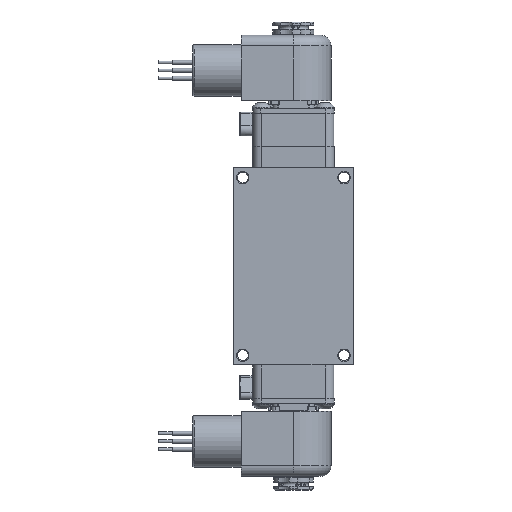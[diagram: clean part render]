
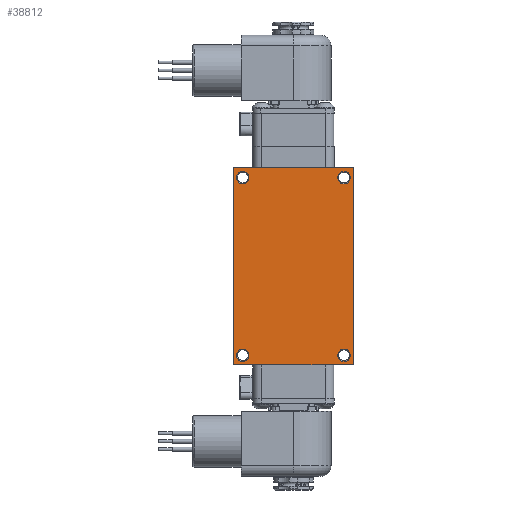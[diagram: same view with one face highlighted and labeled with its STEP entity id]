
A CAD part, front view. The second image highlights one B-rep face of the part: STEP entity #38812.
In plain terms, the highlighted planar face has unit normal (0, -1, 0).
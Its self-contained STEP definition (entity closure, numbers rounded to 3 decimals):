
#1399=FACE_BOUND('',#6134,.T.);
#1400=FACE_BOUND('',#6135,.T.);
#1401=FACE_BOUND('',#6136,.T.);
#1402=FACE_BOUND('',#6137,.T.);
#2101=PLANE('',#42463);
#3788=FACE_OUTER_BOUND('',#6133,.T.);
#6133=EDGE_LOOP('',(#30522,#30523,#30524,#30525));
#6134=EDGE_LOOP('',(#30526));
#6135=EDGE_LOOP('',(#30527));
#6136=EDGE_LOOP('',(#30528));
#6137=EDGE_LOOP('',(#30529));
#8580=CIRCLE('',#42452,0.296);
#8582=CIRCLE('',#42456,0.296);
#8584=CIRCLE('',#42460,0.296);
#8586=CIRCLE('',#42464,0.296);
#10976=LINE('',#65101,#13683);
#10977=LINE('',#65103,#13684);
#10978=LINE('',#65105,#13685);
#10979=LINE('',#65106,#13686);
#13683=VECTOR('',#51179,1.);
#13684=VECTOR('',#51180,1.);
#13685=VECTOR('',#51181,1.);
#13686=VECTOR('',#51182,1.);
#16911=VERTEX_POINT('',#65075);
#16913=VERTEX_POINT('',#65083);
#16915=VERTEX_POINT('',#65091);
#16917=VERTEX_POINT('',#65099);
#16918=VERTEX_POINT('',#65100);
#16919=VERTEX_POINT('',#65102);
#16920=VERTEX_POINT('',#65104);
#16921=VERTEX_POINT('',#65107);
#21672=EDGE_CURVE('',#16911,#16911,#8580,.T.);
#21676=EDGE_CURVE('',#16913,#16913,#8582,.T.);
#21680=EDGE_CURVE('',#16915,#16915,#8584,.T.);
#21684=EDGE_CURVE('',#16917,#16918,#10976,.T.);
#21685=EDGE_CURVE('',#16919,#16917,#10977,.T.);
#21686=EDGE_CURVE('',#16920,#16919,#10978,.T.);
#21687=EDGE_CURVE('',#16918,#16920,#10979,.T.);
#21688=EDGE_CURVE('',#16921,#16921,#8586,.T.);
#30522=ORIENTED_EDGE('',*,*,#21684,.F.);
#30523=ORIENTED_EDGE('',*,*,#21685,.F.);
#30524=ORIENTED_EDGE('',*,*,#21686,.F.);
#30525=ORIENTED_EDGE('',*,*,#21687,.F.);
#30526=ORIENTED_EDGE('',*,*,#21680,.F.);
#30527=ORIENTED_EDGE('',*,*,#21672,.F.);
#30528=ORIENTED_EDGE('',*,*,#21676,.F.);
#30529=ORIENTED_EDGE('',*,*,#21688,.F.);
#38812=ADVANCED_FACE('',(#3788,#1399,#1400,#1401,#1402),#2101,.F.);
#42452=AXIS2_PLACEMENT_3D('',#65076,#51149,#51150);
#42456=AXIS2_PLACEMENT_3D('',#65084,#51159,#51160);
#42460=AXIS2_PLACEMENT_3D('',#65092,#51169,#51170);
#42463=AXIS2_PLACEMENT_3D('',#65098,#51177,#51178);
#42464=AXIS2_PLACEMENT_3D('',#65108,#51183,#51184);
#51149=DIRECTION('center_axis',(0.,-1.,0.));
#51150=DIRECTION('ref_axis',(1.,0.,0.));
#51159=DIRECTION('center_axis',(0.,-1.,0.));
#51160=DIRECTION('ref_axis',(1.,0.,0.));
#51169=DIRECTION('center_axis',(0.,-1.,0.));
#51170=DIRECTION('ref_axis',(1.,0.,0.));
#51177=DIRECTION('center_axis',(0.,1.,0.));
#51178=DIRECTION('ref_axis',(0.,0.,1.));
#51179=DIRECTION('',(0.,0.,-1.));
#51180=DIRECTION('',(1.,0.,0.));
#51181=DIRECTION('',(0.,0.,1.));
#51182=DIRECTION('',(-1.,0.,0.));
#51183=DIRECTION('center_axis',(0.,-1.,0.));
#51184=DIRECTION('ref_axis',(1.,0.,0.));
#65075=CARTESIAN_POINT('',(2.125,-1.636,-4.247));
#65076=CARTESIAN_POINT('Origin',(2.421,-1.636,-4.247));
#65083=CARTESIAN_POINT('',(-2.717,-1.636,-4.247));
#65084=CARTESIAN_POINT('Origin',(-2.421,-1.636,-4.247));
#65091=CARTESIAN_POINT('',(-2.717,-1.636,4.247));
#65092=CARTESIAN_POINT('Origin',(-2.421,-1.636,4.247));
#65098=CARTESIAN_POINT('Origin',(0.,-1.636,0.));
#65099=CARTESIAN_POINT('',(2.858,-1.636,4.71));
#65100=CARTESIAN_POINT('',(2.858,-1.636,-4.71));
#65101=CARTESIAN_POINT('',(2.858,-1.636,-4.71));
#65102=CARTESIAN_POINT('',(-2.858,-1.636,4.71));
#65103=CARTESIAN_POINT('',(2.858,-1.636,4.71));
#65104=CARTESIAN_POINT('',(-2.858,-1.636,-4.71));
#65105=CARTESIAN_POINT('',(-2.858,-1.636,4.71));
#65106=CARTESIAN_POINT('',(-2.858,-1.636,-4.71));
#65107=CARTESIAN_POINT('',(2.125,-1.636,4.247));
#65108=CARTESIAN_POINT('Origin',(2.421,-1.636,4.247));
